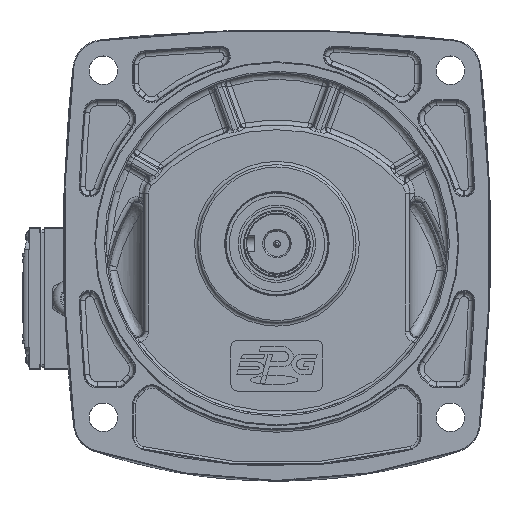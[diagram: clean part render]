
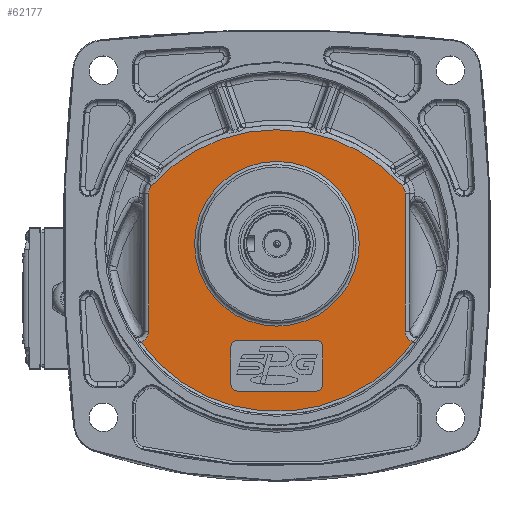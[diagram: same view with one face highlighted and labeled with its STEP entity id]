
A CAD part, top view. The second image highlights one B-rep face of the part: STEP entity #62177.
In plain terms, the highlighted planar face has unit normal (0, 0, 1).
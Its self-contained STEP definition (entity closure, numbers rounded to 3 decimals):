
#628=FACE_BOUND('',#14295,.T.);
#629=FACE_BOUND('',#14296,.T.);
#1614=PLANE('',#67298);
#3541=LINE('',#99338,#6515);
#3545=LINE('',#99350,#6519);
#3549=LINE('',#99362,#6523);
#3646=LINE('',#99638,#6620);
#3889=LINE('',#106413,#6863);
#3890=LINE('',#106428,#6864);
#6515=VECTOR('',#76510,10.);
#6519=VECTOR('',#76522,10.);
#6523=VECTOR('',#76534,10.);
#6620=VECTOR('',#76781,10.);
#6863=VECTOR('',#78112,10.);
#6864=VECTOR('',#78115,10.);
#10373=FACE_OUTER_BOUND('',#14294,.T.);
#14294=EDGE_LOOP('',(#45118,#45119,#45120,#45121,#45122,#45123,#45124,#45125));
#14295=EDGE_LOOP('',(#45126,#45127,#45128,#45129,#45130,#45131,#45132,#45133));
#14296=EDGE_LOOP('',(#45134));
#17939=CIRCLE('',#66670,4.);
#17941=CIRCLE('',#66674,4.);
#17943=CIRCLE('',#66678,4.);
#17945=CIRCLE('',#66682,4.);
#18272=CIRCLE('',#67294,105.999);
#18276=CIRCLE('',#67299,106.076);
#18277=CIRCLE('',#67300,52.);
#21113=B_SPLINE_CURVE_WITH_KNOTS('',3,(#106388,#106389,#106390,#106391,
#106392,#106393),.UNSPECIFIED.,.F.,.F.,(4,1,1,4),(0.901,1.027,
1.54,1.797),.UNSPECIFIED.);
#21115=B_SPLINE_CURVE_WITH_KNOTS('',3,(#106405,#106406,#106407,#106408,
#106409,#106410,#106411),.UNSPECIFIED.,.F.,.F.,(4,1,1,1,4),(0.,
0.257,0.513,0.77,0.896),
 .UNSPECIFIED.);
#21116=B_SPLINE_CURVE_WITH_KNOTS('',3,(#106415,#106416,#106417,#106418,
#106419),.UNSPECIFIED.,.F.,.F.,(4,1,4),(0.,0.217,0.507),
 .UNSPECIFIED.);
#21117=B_SPLINE_CURVE_WITH_KNOTS('',3,(#106423,#106424,#106425,#106426,
#106427),.UNSPECIFIED.,.F.,.F.,(4,1,4),(0.,0.29,0.507),
 .UNSPECIFIED.);
#25052=VERTEX_POINT('',#99328);
#25053=VERTEX_POINT('',#99330);
#25055=VERTEX_POINT('',#99336);
#25057=VERTEX_POINT('',#99342);
#25059=VERTEX_POINT('',#99348);
#25061=VERTEX_POINT('',#99354);
#25063=VERTEX_POINT('',#99360);
#25065=VERTEX_POINT('',#99366);
#25591=VERTEX_POINT('',#106182);
#25592=VERTEX_POINT('',#106184);
#25596=VERTEX_POINT('',#106387);
#25598=VERTEX_POINT('',#106404);
#25599=VERTEX_POINT('',#106412);
#25600=VERTEX_POINT('',#106414);
#25601=VERTEX_POINT('',#106420);
#25602=VERTEX_POINT('',#106422);
#25603=VERTEX_POINT('',#106429);
#31589=EDGE_CURVE('',#25052,#25053,#17939,.T.);
#31593=EDGE_CURVE('',#25052,#25055,#3541,.T.);
#31596=EDGE_CURVE('',#25057,#25055,#17941,.T.);
#31599=EDGE_CURVE('',#25057,#25059,#3545,.T.);
#31602=EDGE_CURVE('',#25061,#25059,#17943,.T.);
#31605=EDGE_CURVE('',#25061,#25063,#3549,.T.);
#31608=EDGE_CURVE('',#25065,#25063,#17945,.T.);
#31744=EDGE_CURVE('',#25065,#25053,#3646,.T.);
#32518=EDGE_CURVE('',#25591,#25592,#18272,.T.);
#32525=EDGE_CURVE('',#25592,#25596,#21113,.T.);
#32528=EDGE_CURVE('',#25598,#25591,#21115,.T.);
#32529=EDGE_CURVE('',#25599,#25598,#3889,.T.);
#32530=EDGE_CURVE('',#25600,#25599,#21116,.T.);
#32531=EDGE_CURVE('',#25601,#25600,#18276,.T.);
#32532=EDGE_CURVE('',#25602,#25601,#21117,.T.);
#32533=EDGE_CURVE('',#25596,#25602,#3890,.T.);
#32534=EDGE_CURVE('',#25603,#25603,#18277,.T.);
#45118=ORIENTED_EDGE('',*,*,#32518,.F.);
#45119=ORIENTED_EDGE('',*,*,#32528,.F.);
#45120=ORIENTED_EDGE('',*,*,#32529,.F.);
#45121=ORIENTED_EDGE('',*,*,#32530,.F.);
#45122=ORIENTED_EDGE('',*,*,#32531,.F.);
#45123=ORIENTED_EDGE('',*,*,#32532,.F.);
#45124=ORIENTED_EDGE('',*,*,#32533,.F.);
#45125=ORIENTED_EDGE('',*,*,#32525,.F.);
#45126=ORIENTED_EDGE('',*,*,#31605,.T.);
#45127=ORIENTED_EDGE('',*,*,#31608,.F.);
#45128=ORIENTED_EDGE('',*,*,#31744,.T.);
#45129=ORIENTED_EDGE('',*,*,#31589,.F.);
#45130=ORIENTED_EDGE('',*,*,#31593,.T.);
#45131=ORIENTED_EDGE('',*,*,#31596,.F.);
#45132=ORIENTED_EDGE('',*,*,#31599,.T.);
#45133=ORIENTED_EDGE('',*,*,#31602,.F.);
#45134=ORIENTED_EDGE('',*,*,#32534,.F.);
#62177=ADVANCED_FACE('',(#10373,#628,#629),#1614,.F.);
#66670=AXIS2_PLACEMENT_3D('',#99331,#76503,#76504);
#66674=AXIS2_PLACEMENT_3D('',#99344,#76516,#76517);
#66678=AXIS2_PLACEMENT_3D('',#99356,#76528,#76529);
#66682=AXIS2_PLACEMENT_3D('',#99368,#76540,#76541);
#67294=AXIS2_PLACEMENT_3D('',#106185,#78102,#78103);
#67298=AXIS2_PLACEMENT_3D('',#106403,#78110,#78111);
#67299=AXIS2_PLACEMENT_3D('',#106421,#78113,#78114);
#67300=AXIS2_PLACEMENT_3D('',#106430,#78116,#78117);
#76503=DIRECTION('center_axis',(0.,0.,1.));
#76504=DIRECTION('ref_axis',(0.707,0.707,0.));
#76510=DIRECTION('',(0.,-1.,0.));
#76516=DIRECTION('center_axis',(0.,0.,1.));
#76517=DIRECTION('ref_axis',(0.707,-0.707,0.));
#76522=DIRECTION('',(-1.,0.,0.));
#76528=DIRECTION('center_axis',(0.,0.,1.));
#76529=DIRECTION('ref_axis',(-0.707,-0.707,0.));
#76534=DIRECTION('',(0.,1.,0.));
#76540=DIRECTION('center_axis',(0.,0.,1.));
#76541=DIRECTION('ref_axis',(-0.707,0.707,0.));
#76781=DIRECTION('',(1.,0.,0.));
#78102=DIRECTION('center_axis',(0.,0.,-1.));
#78103=DIRECTION('ref_axis',(0.,-1.,0.));
#78110=DIRECTION('center_axis',(0.,0.,-1.));
#78111=DIRECTION('ref_axis',(-1.,0.,0.));
#78112=DIRECTION('',(0.,-1.,0.));
#78113=DIRECTION('center_axis',(0.,0.,-1.));
#78114=DIRECTION('ref_axis',(0.,1.,0.));
#78115=DIRECTION('',(0.,1.,0.));
#78116=DIRECTION('center_axis',(0.,0.,1.));
#78117=DIRECTION('ref_axis',(-1.,0.,0.));
#99328=CARTESIAN_POINT('',(31.891,-30.92,88.));
#99330=CARTESIAN_POINT('',(27.891,-26.92,88.));
#99331=CARTESIAN_POINT('Origin',(27.891,-30.92,88.));
#99336=CARTESIAN_POINT('',(31.891,-54.92,88.));
#99338=CARTESIAN_POINT('',(31.891,-29.42,88.));
#99342=CARTESIAN_POINT('',(27.891,-58.92,88.));
#99344=CARTESIAN_POINT('Origin',(27.891,-54.92,88.));
#99348=CARTESIAN_POINT('',(-22.109,-58.92,88.));
#99350=CARTESIAN_POINT('',(-11.609,-58.92,88.));
#99354=CARTESIAN_POINT('',(-26.109,-54.92,88.));
#99356=CARTESIAN_POINT('Origin',(-22.109,-54.92,88.));
#99360=CARTESIAN_POINT('',(-26.109,-30.92,88.));
#99362=CARTESIAN_POINT('',(-26.109,-13.42,88.));
#99366=CARTESIAN_POINT('',(-22.109,-26.92,88.));
#99368=CARTESIAN_POINT('Origin',(-22.109,-30.92,88.));
#99638=CARTESIAN_POINT('',(17.391,-26.92,88.));
#106182=CARTESIAN_POINT('',(88.925,-27.839,88.));
#106184=CARTESIAN_POINT('',(-83.143,-27.839,88.));
#106185=CARTESIAN_POINT('Origin',(2.891,34.08,88.));
#106387=CARTESIAN_POINT('',(-78.109,-21.114,88.));
#106388=CARTESIAN_POINT('Ctrl Pts',(-83.144,-27.838,
88.));
#106389=CARTESIAN_POINT('Ctrl Pts',(-82.738,-27.721,
88.));
#106390=CARTESIAN_POINT('Ctrl Pts',(-80.734,-26.943,
88.));
#106391=CARTESIAN_POINT('Ctrl Pts',(-78.576,-24.563,
88.));
#106392=CARTESIAN_POINT('Ctrl Pts',(-78.109,-21.97,
88.));
#106393=CARTESIAN_POINT('Ctrl Pts',(-78.109,-21.114,
88.));
#106403=CARTESIAN_POINT('Origin',(2.891,0.08,88.));
#106404=CARTESIAN_POINT('',(83.891,-21.114,88.));
#106405=CARTESIAN_POINT('Ctrl Pts',(83.891,-21.114,
88.));
#106406=CARTESIAN_POINT('Ctrl Pts',(83.891,-21.97,
88.));
#106407=CARTESIAN_POINT('Ctrl Pts',(84.21,-23.7,
88.));
#106408=CARTESIAN_POINT('Ctrl Pts',(85.588,-25.927,
88.));
#106409=CARTESIAN_POINT('Ctrl Pts',(87.32,-27.254,
88.));
#106410=CARTESIAN_POINT('Ctrl Pts',(88.52,-27.72,
88.));
#106411=CARTESIAN_POINT('Ctrl Pts',(88.926,-27.837,
88.));
#106412=CARTESIAN_POINT('',(83.891,65.956,88.));
#106413=CARTESIAN_POINT('',(83.891,-47.92,88.));
#106414=CARTESIAN_POINT('',(82.117,70.616,88.));
#106415=CARTESIAN_POINT('Ctrl Pts',(82.117,70.616,88.));
#106416=CARTESIAN_POINT('Ctrl Pts',(82.599,70.075,88.));
#106417=CARTESIAN_POINT('Ctrl Pts',(83.534,68.625,88.));
#106418=CARTESIAN_POINT('Ctrl Pts',(83.891,66.921,88.));
#106419=CARTESIAN_POINT('Ctrl Pts',(83.891,65.956,88.));
#106420=CARTESIAN_POINT('',(-76.336,70.616,88.));
#106421=CARTESIAN_POINT('Origin',(2.891,0.08,88.));
#106422=CARTESIAN_POINT('',(-78.109,65.956,88.));
#106423=CARTESIAN_POINT('Ctrl Pts',(-78.109,65.956,88.));
#106424=CARTESIAN_POINT('Ctrl Pts',(-78.109,66.921,88.));
#106425=CARTESIAN_POINT('Ctrl Pts',(-77.752,68.625,88.));
#106426=CARTESIAN_POINT('Ctrl Pts',(-76.817,70.075,
88.));
#106427=CARTESIAN_POINT('Ctrl Pts',(-76.336,70.616,
88.));
#106428=CARTESIAN_POINT('',(-78.109,-47.92,88.));
#106429=CARTESIAN_POINT('',(54.891,34.08,88.));
#106430=CARTESIAN_POINT('Origin',(2.891,34.08,88.));
